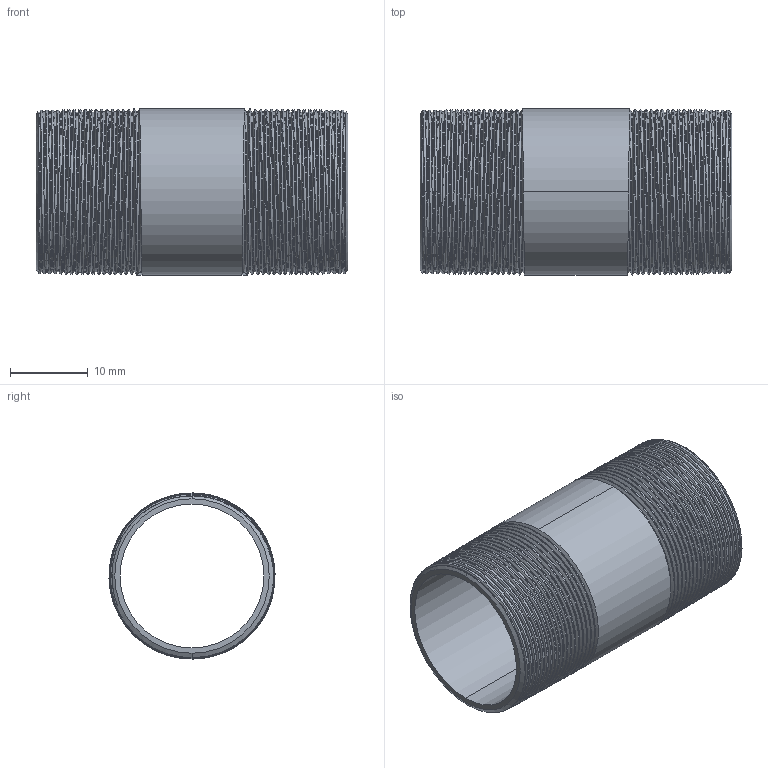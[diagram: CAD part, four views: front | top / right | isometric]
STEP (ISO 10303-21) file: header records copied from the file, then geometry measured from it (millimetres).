
FILE_DESCRIPTION (( 'STEP AP203' ), '1' );
FILE_NAME ('3D_R210_1-2x40_17148530.STEP', '2024-08-16T09:55:58', ( '' ), ( '' ), 'SwSTEP 2.0', 'SolidWorks 2024', '' );
FILE_SCHEMA (( 'CONFIG_CONTROL_DESIGN' ));
Length unit declared in the file: millimetre
Products named in the file (1): 3D_R210_1-2x40_17148530
Bounding box: 40 x 21.29 x 21.3 mm (x, y, z)
Volume: 3157.8 mm3; surface area: 5894.4 mm2
Topology: 1 solids, 1 shells, 94 faces, 268 edges, 176 vertices
Faces by surface type: cone 80, bspline 6, cylinder 4, plane 4
Entity records: 13577 total; most frequent: CARTESIAN_POINT 11393, ORIENTED_EDGE 536, DIRECTION 296, EDGE_CURVE 268, VERTEX_POINT 176, B_SPLINE_CURVE_WITH_KNOTS 156, AXIS2_PLACEMENT_3D 103, EDGE_LOOP 96
